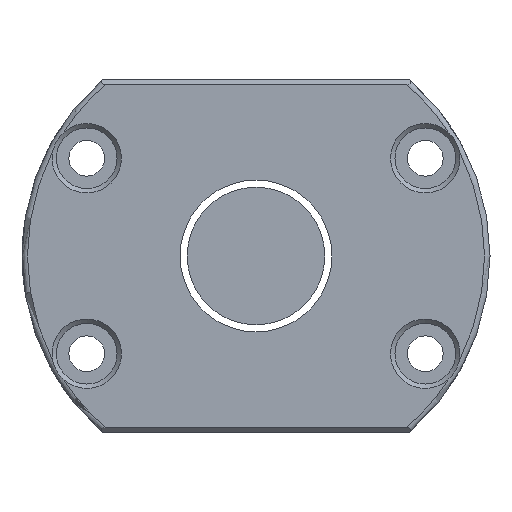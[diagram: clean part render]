
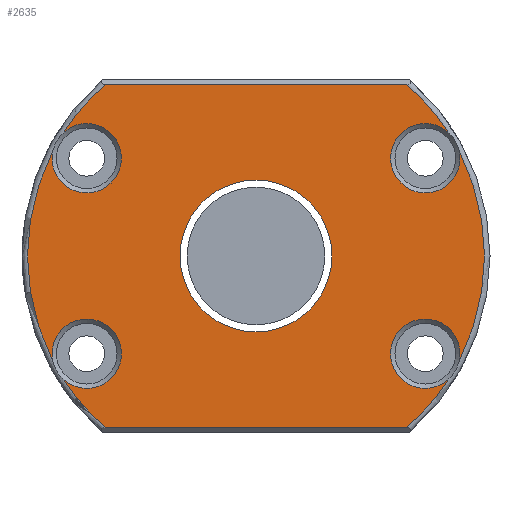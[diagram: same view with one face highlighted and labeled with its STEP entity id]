
A CAD part, left-side view. The second image highlights one B-rep face of the part: STEP entity #2635.
In plain terms, the highlighted planar face has unit normal (-1, 0, 0).
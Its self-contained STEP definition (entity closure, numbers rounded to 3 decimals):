
#88 = DIRECTION ( 'NONE',  ( 0., 0., 1. ) ) ;
#121 = LINE ( 'NONE', #369, #2852 ) ;
#140 = CARTESIAN_POINT ( 'NONE',  ( -70., 0., 0. ) ) ;
#155 = CARTESIAN_POINT ( 'NONE',  ( -70., 0., 0. ) ) ;
#175 = CIRCLE ( 'NONE', #3017, 6.3 ) ;
#244 = ORIENTED_EDGE ( 'NONE', *, *, #391, .T. ) ;
#260 = EDGE_CURVE ( 'NONE', #2600, #2765, #2590, .T. ) ;
#262 = VERTEX_POINT ( 'NONE', #3084 ) ;
#289 = DIRECTION ( 'NONE',  ( 0., 0., 1. ) ) ;
#349 = CARTESIAN_POINT ( 'NONE',  ( -70., 36.933, 18.926 ) ) ;
#369 = CARTESIAN_POINT ( 'NONE',  ( -70., 26.424, 31.2 ) ) ;
#373 = DIRECTION ( 'NONE',  ( 1., 0., 0. ) ) ;
#391 = EDGE_CURVE ( 'NONE', #1113, #1786, #121, .T. ) ;
#392 = CARTESIAN_POINT ( 'NONE',  ( -70., 42.5, 0. ) ) ;
#393 = DIRECTION ( 'NONE',  ( 0., 0., 1. ) ) ;
#395 = DIRECTION ( 'NONE',  ( -1., 0., 0. ) ) ;
#461 = DIRECTION ( 'NONE',  ( 0., -1., 0. ) ) ;
#538 = DIRECTION ( 'NONE',  ( 0., 0., 1. ) ) ;
#579 = CIRCLE ( 'NONE', #2942, 41.5 ) ;
#585 = EDGE_CURVE ( 'NONE', #1705, #2989, #175, .T. ) ;
#612 = ORIENTED_EDGE ( 'NONE', *, *, #2043, .T. ) ;
#622 = CARTESIAN_POINT ( 'NONE',  ( -70., -34.857, 22.522 ) ) ;
#637 = DIRECTION ( 'NONE',  ( -1., 0., 0. ) ) ;
#654 = CARTESIAN_POINT ( 'NONE',  ( -70., 0., 0. ) ) ;
#702 = CARTESIAN_POINT ( 'NONE',  ( -70., -30.744, 17.75 ) ) ;
#783 = DIRECTION ( 'NONE',  ( 1., 0., 0. ) ) ;
#790 = VERTEX_POINT ( 'NONE', #622 ) ;
#794 = DIRECTION ( 'NONE',  ( 1., 0., 0. ) ) ;
#805 = ORIENTED_EDGE ( 'NONE', *, *, #2830, .T. ) ;
#824 = EDGE_CURVE ( 'NONE', #790, #1113, #1276, .T. ) ;
#837 = CARTESIAN_POINT ( 'NONE',  ( -70., 36.933, -18.926 ) ) ;
#945 = AXIS2_PLACEMENT_3D ( 'NONE', #654, #1635, #393 ) ;
#993 = AXIS2_PLACEMENT_3D ( 'NONE', #2154, #373, #2607 ) ;
#1047 = CIRCLE ( 'NONE', #2887, 41.5 ) ;
#1113 = VERTEX_POINT ( 'NONE', #2419 ) ;
#1116 = DIRECTION ( 'NONE',  ( 0., 1., 0. ) ) ;
#1118 = DIRECTION ( 'NONE',  ( 1., 0., 0. ) ) ;
#1136 = DIRECTION ( 'NONE',  ( 0., 0., 1. ) ) ;
#1152 = DIRECTION ( 'NONE',  ( -1., 0., 0. ) ) ;
#1161 = VERTEX_POINT ( 'NONE', #1180 ) ;
#1180 = CARTESIAN_POINT ( 'NONE',  ( -70., -27.364, -31.2 ) ) ;
#1188 = EDGE_LOOP ( 'NONE', ( #2482, #244, #2974, #2731, #805, #1708, #1460, #2670, #612, #1599, #1512, #1412 ) ) ;
#1276 = CIRCLE ( 'NONE', #1544, 41.5 ) ;
#1308 = CIRCLE ( 'NONE', #3155, 6.3 ) ;
#1335 = DIRECTION ( 'NONE',  ( -1., 0., 0. ) ) ;
#1342 = ORIENTED_EDGE ( 'NONE', *, *, #1856, .T. ) ;
#1361 = CIRCLE ( 'NONE', #993, 13.8 ) ;
#1388 = DIRECTION ( 'NONE',  ( -1., 0., 0. ) ) ;
#1402 = PLANE ( 'NONE',  #1575 ) ;
#1412 = ORIENTED_EDGE ( 'NONE', *, *, #2339, .T. ) ;
#1460 = ORIENTED_EDGE ( 'NONE', *, *, #1784, .T. ) ;
#1486 = AXIS2_PLACEMENT_3D ( 'NONE', #1874, #1118, #1568 ) ;
#1495 = VERTEX_POINT ( 'NONE', #3163 ) ;
#1512 = ORIENTED_EDGE ( 'NONE', *, *, #2659, .T. ) ;
#1544 = AXIS2_PLACEMENT_3D ( 'NONE', #2647, #395, #2741 ) ;
#1568 = DIRECTION ( 'NONE',  ( 0., 0., 1. ) ) ;
#1575 = AXIS2_PLACEMENT_3D ( 'NONE', #392, #1388, #2386 ) ;
#1599 = ORIENTED_EDGE ( 'NONE', *, *, #260, .T. ) ;
#1606 = VERTEX_POINT ( 'NONE', #2167 ) ;
#1634 = FACE_OUTER_BOUND ( 'NONE', #1188, .T. ) ;
#1635 = DIRECTION ( 'NONE',  ( -1., 0., 0. ) ) ;
#1665 = FACE_BOUND ( 'NONE', #1817, .T. ) ;
#1701 = LINE ( 'NONE', #3216, #2891 ) ;
#1705 = VERTEX_POINT ( 'NONE', #837 ) ;
#1708 = ORIENTED_EDGE ( 'NONE', *, *, #585, .T. ) ;
#1717 = CARTESIAN_POINT ( 'NONE',  ( -70., 30.744, 17.75 ) ) ;
#1731 = CIRCLE ( 'NONE', #945, 41.5 ) ;
#1743 = CARTESIAN_POINT ( 'NONE',  ( -70., 0., -13.8 ) ) ;
#1784 = EDGE_CURVE ( 'NONE', #2989, #1495, #3203, .T. ) ;
#1786 = VERTEX_POINT ( 'NONE', #1911 ) ;
#1791 = DIRECTION ( 'NONE',  ( 0., 0., 1. ) ) ;
#1817 = EDGE_LOOP ( 'NONE', ( #1342 ) ) ;
#1830 = CIRCLE ( 'NONE', #2574, 41.5 ) ;
#1842 = EDGE_CURVE ( 'NONE', #1786, #262, #1047, .T. ) ;
#1856 = EDGE_CURVE ( 'NONE', #1953, #1953, #1361, .T. ) ;
#1874 = CARTESIAN_POINT ( 'NONE',  ( -70., -30.744, -17.75 ) ) ;
#1876 = CARTESIAN_POINT ( 'NONE',  ( -70., 0., 0. ) ) ;
#1911 = CARTESIAN_POINT ( 'NONE',  ( -70., 27.364, 31.2 ) ) ;
#1915 = DIRECTION ( 'NONE',  ( 0., 0., 1. ) ) ;
#1953 = VERTEX_POINT ( 'NONE', #1743 ) ;
#2043 = EDGE_CURVE ( 'NONE', #1161, #2600, #1731, .T. ) ;
#2055 = CARTESIAN_POINT ( 'NONE',  ( -70., 0., 0. ) ) ;
#2099 = DIRECTION ( 'NONE',  ( -1., 0., 0. ) ) ;
#2154 = CARTESIAN_POINT ( 'NONE',  ( -70., 0., 0. ) ) ;
#2167 = CARTESIAN_POINT ( 'NONE',  ( -70., -36.933, 18.926 ) ) ;
#2339 = EDGE_CURVE ( 'NONE', #1606, #790, #3048, .T. ) ;
#2361 = CARTESIAN_POINT ( 'NONE',  ( -70., 34.857, -22.522 ) ) ;
#2381 = EDGE_CURVE ( 'NONE', #1495, #1161, #1701, .T. ) ;
#2386 = DIRECTION ( 'NONE',  ( 0., 0., 1. ) ) ;
#2419 = CARTESIAN_POINT ( 'NONE',  ( -70., -27.364, 31.2 ) ) ;
#2465 = AXIS2_PLACEMENT_3D ( 'NONE', #702, #2907, #1915 ) ;
#2482 = ORIENTED_EDGE ( 'NONE', *, *, #824, .T. ) ;
#2510 = EDGE_CURVE ( 'NONE', #262, #2767, #1308, .T. ) ;
#2574 = AXIS2_PLACEMENT_3D ( 'NONE', #140, #1152, #1136 ) ;
#2590 = CIRCLE ( 'NONE', #1486, 6.3 ) ;
#2600 = VERTEX_POINT ( 'NONE', #2885 ) ;
#2601 = CARTESIAN_POINT ( 'NONE',  ( -70., -36.933, -18.926 ) ) ;
#2607 = DIRECTION ( 'NONE',  ( 0., 0., -1. ) ) ;
#2635 = ADVANCED_FACE ( 'NONE', ( #1634, #1665 ), #1402, .T. ) ;
#2647 = CARTESIAN_POINT ( 'NONE',  ( -70., 0., 0. ) ) ;
#2659 = EDGE_CURVE ( 'NONE', #2765, #1606, #1830, .T. ) ;
#2670 = ORIENTED_EDGE ( 'NONE', *, *, #2381, .T. ) ;
#2731 = ORIENTED_EDGE ( 'NONE', *, *, #2510, .T. ) ;
#2741 = DIRECTION ( 'NONE',  ( 0., 0., 1. ) ) ;
#2765 = VERTEX_POINT ( 'NONE', #2601 ) ;
#2767 = VERTEX_POINT ( 'NONE', #349 ) ;
#2830 = EDGE_CURVE ( 'NONE', #2767, #1705, #579, .T. ) ;
#2835 = AXIS2_PLACEMENT_3D ( 'NONE', #1876, #637, #2886 ) ;
#2852 = VECTOR ( 'NONE', #1116, 1000. ) ;
#2885 = CARTESIAN_POINT ( 'NONE',  ( -70., -34.857, -22.522 ) ) ;
#2886 = DIRECTION ( 'NONE',  ( 0., 0., 1. ) ) ;
#2887 = AXIS2_PLACEMENT_3D ( 'NONE', #155, #1335, #88 ) ;
#2891 = VECTOR ( 'NONE', #461, 1000. ) ;
#2907 = DIRECTION ( 'NONE',  ( 1., 0., 0. ) ) ;
#2942 = AXIS2_PLACEMENT_3D ( 'NONE', #2055, #2099, #538 ) ;
#2974 = ORIENTED_EDGE ( 'NONE', *, *, #1842, .T. ) ;
#2989 = VERTEX_POINT ( 'NONE', #2361 ) ;
#3017 = AXIS2_PLACEMENT_3D ( 'NONE', #3046, #794, #1791 ) ;
#3046 = CARTESIAN_POINT ( 'NONE',  ( -70., 30.744, -17.75 ) ) ;
#3048 = CIRCLE ( 'NONE', #2465, 6.3 ) ;
#3084 = CARTESIAN_POINT ( 'NONE',  ( -70., 34.857, 22.522 ) ) ;
#3155 = AXIS2_PLACEMENT_3D ( 'NONE', #1717, #783, #289 ) ;
#3163 = CARTESIAN_POINT ( 'NONE',  ( -70., 27.364, -31.2 ) ) ;
#3203 = CIRCLE ( 'NONE', #2835, 41.5 ) ;
#3216 = CARTESIAN_POINT ( 'NONE',  ( -70., -26.424, -31.2 ) ) ;
